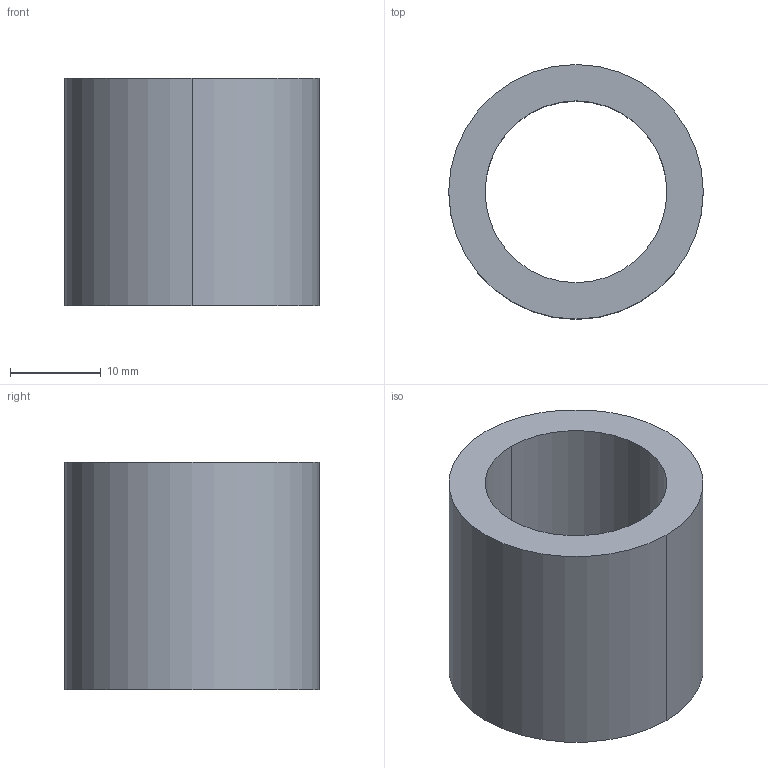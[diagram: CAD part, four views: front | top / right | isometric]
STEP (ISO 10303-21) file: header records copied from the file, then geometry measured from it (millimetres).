
FILE_DESCRIPTION(/* description */ (''),/* implementation_level */ '2;1');
FILE_NAME(/* name */ '3d_tgbm20-25_00324_r00.stp',/* time_stamp */ '2011-01-10T14:09:03+09:00',/* author */ ('MISUMI'),/* organization */ (''),/* preprocessor_version */ 'ST-DEVELOPER v11',/* originating_system */ 'UGS - NX 5.0',/* authorisation */ '');
FILE_SCHEMA (('CONFIG_CONTROL_DESIGN'));
Length unit declared in the file: millimetre
Products named in the file (1): 3d_tgbm20-25_00324_r00
Bounding box: 28 x 28 x 25 mm (x, y, z)
Volume: 7539.8 mm3; surface area: 4373.1 mm2
Topology: 1 solids, 1 shells, 6 faces, 12 edges, 8 vertices
Faces by surface type: cylinder 4, plane 2
Entity records: 254 total; most frequent: DIRECTION 34, CARTESIAN_POINT 27, ORIENTED_EDGE 24, AXIS2_PLACEMENT_3D 15, EDGE_CURVE 12, EDGE_LOOP 8, CIRCLE 8, VERTEX_POINT 8
